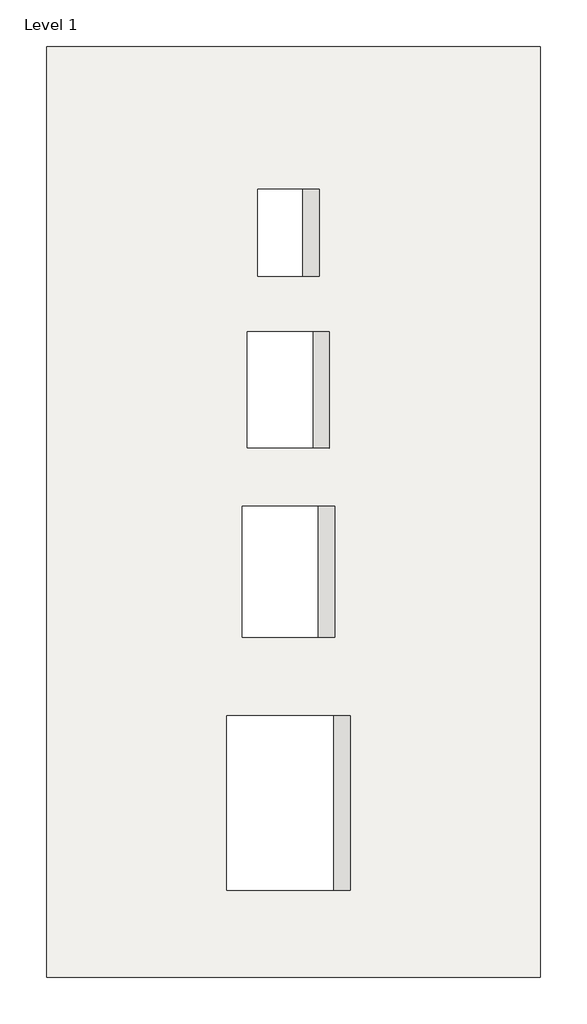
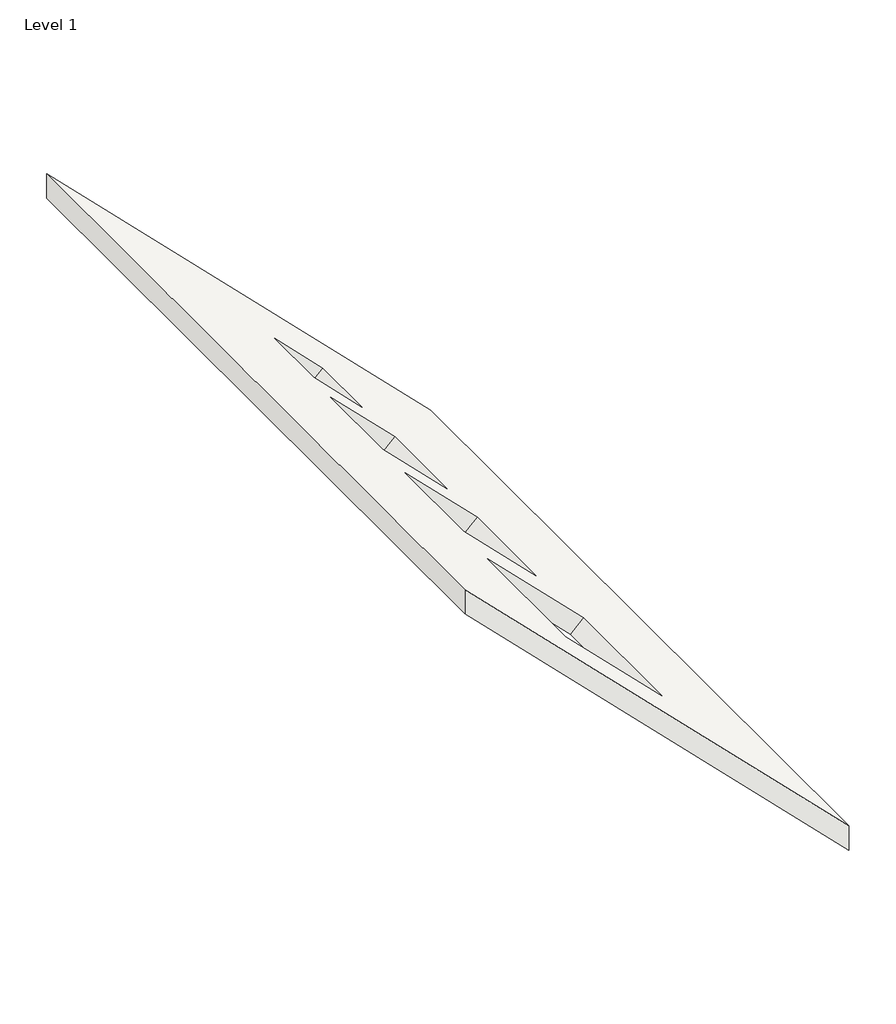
# One storey: 1 roof.
"""IFC4 building model written with IfcOpenShell, lengths in millimetres."""

import ifcopenshell
import ifcopenshell.guid

model = None  # the IFC model being written
_history = None  # IfcOwnerHistory: only IFC2X3 demands one
_inside = {}  # id of a spatial element -> (the spatial element, [elements in it])
_under = {}  # id of a project, library or spatial element -> (it, [spatial elements below it])
_declared = {}  # id of a project -> (the project, [libraries it declares])
_typed = {}  # id of a type object -> (the type object, [elements of that type])
_made_of = {}  # id of a material, layer set ... -> (it, [elements and type objects made of it])


def new_model(schema):
    """Start an empty IFC model of exactly this schema.

    Asked for "IFC4X3", IfcOpenShell would pick the latest addendum, in which some entities
    have other attributes; the version numbers below select the first issue.
    IFC2X3 requires an IfcOwnerHistory on every rooted entity: one is made here for all.
    """
    global model, _history
    if schema == "IFC4X3":
        model = ifcopenshell.file(schema_version=(4, 3, 0, 0))
    else:
        model = ifcopenshell.file(schema=schema)
    _inside.clear()
    _under.clear()
    _declared.clear()
    _typed.clear()
    _made_of.clear()
    _history = None
    if model.schema == "IFC2X3":
        org = make("IfcOrganization", Name="unknown")
        user = make(
            "IfcPersonAndOrganization",
            ThePerson=make("IfcPerson", FamilyName="unknown"),
            TheOrganization=org,
        )
        app = make(
            "IfcApplication",
            ApplicationDeveloper=org,
            Version="unknown",
            ApplicationFullName="unknown",
            ApplicationIdentifier="unknown",
        )
        _history = make(
            "IfcOwnerHistory",
            OwningUser=user,
            OwningApplication=app,
            ChangeAction="ADDED",
            CreationDate=0,
        )
    return model


def make(cls, **values):
    """One entity of the class cls with the attributes given. An attribute that is None is left unset."""
    return model.create_entity(
        cls, **{name: value for name, value in values.items() if value is not None}
    )


def rooted(cls, **values):
    """An entity with a GlobalId (a new one), such as an element, a storey or a relation."""
    return make(cls, GlobalId=ifcopenshell.guid.new(), OwnerHistory=_history, **values)


def si_unit(unit_type, name, prefix=None):
    """IfcSIUnit, for example si_unit("LENGTHUNIT", "METRE", prefix="MILLI")."""
    return make("IfcSIUnit", UnitType=unit_type, Prefix=prefix, Name=name)


def assignment(units):
    """IfcUnitAssignment: the units of a project."""
    return None if units is None else make("IfcUnitAssignment", Units=units)


def point(xyz):
    """IfcCartesianPoint."""
    return None if xyz is None else make("IfcCartesianPoint", Coordinates=xyz)


def direction(xyz):
    """IfcDirection."""
    return None if xyz is None else make("IfcDirection", DirectionRatios=xyz)


def frame(location, z_axis=None, x_axis=None):
    """IfcAxis2Placement3D, a coordinate frame: its origin and axes. An axis left out is left unset."""
    return make(
        "IfcAxis2Placement3D",
        Location=point(location),
        Axis=direction(z_axis),
        RefDirection=direction(x_axis),
    )


def origin():
    """The frame at (0, 0, 0) with its axes left unset."""
    return frame((0.0, 0.0, 0.0))


def place(relative_to, where):
    """IfcLocalPlacement: puts the frame where relative to a parent placement (None: the world)."""
    return make(
        "IfcLocalPlacement", PlacementRelTo=relative_to, RelativePlacement=where
    )


def context(
    kind, dimensions, precision=None, world=None, true_north=None, identifier=None
):
    """IfcGeometricRepresentationContext, for example the 3D "Model" context."""
    return make(
        "IfcGeometricRepresentationContext",
        ContextIdentifier=identifier,
        ContextType=kind,
        CoordinateSpaceDimension=dimensions,
        Precision=precision,
        WorldCoordinateSystem=world,
        TrueNorth=true_north,
    )


def project(units=None, contexts=None):
    """IfcProject with its units and contexts."""
    return rooted(
        "IfcProject",
        Name="project",
        RepresentationContexts=contexts,
        UnitsInContext=assignment(units),
    )


def spatial(cls, under=None, at=None, **own):
    """A site, building, storey or space (cls), placed at a placement, below another one or the project."""
    s = rooted(cls, ObjectPlacement=at, **own)
    if under is not None:
        _under.setdefault(under.id(), (under, []))[1].append(s)
    return s


def faces_of(points, faces, orient=None, outer=None):
    """IfcFace entities. A face is a list of loops; a loop is a list of indices into points, from 0.

    orient and outer hold one flag for each loop. By default every Orientation is true, the
    first loop of a face is its IfcFaceOuterBound and the others are IfcFaceBound.
    """
    made = []
    for i, loops in enumerate(faces):
        bounds = []
        for j, loop in enumerate(loops):
            is_outer = j == 0 if outer is None else outer[i][j]
            bounds.append(
                make(
                    "IfcFaceOuterBound" if is_outer else "IfcFaceBound",
                    Bound=make("IfcPolyLoop", Polygon=[points[k] for k in loop]),
                    Orientation=True if orient is None else orient[i][j],
                )
            )
        made.append(make("IfcFace", Bounds=bounds))
    return made


def faceted_brep(points, faces, orient=None, outer=None, voids=None):
    """IfcFacetedBrep: a solid bounded by flat faces; with voids (closed shells), ...WithVoids."""
    shared = [point(p) for p in points]
    hull = make("IfcClosedShell", CfsFaces=faces_of(shared, faces, orient, outer))
    if voids is None:
        return make("IfcFacetedBrep", Outer=hull)
    return make(
        "IfcFacetedBrepWithVoids",
        Outer=hull,
        Voids=[
            make(cls, CfsFaces=faces_of(shared, fs, o, b)) for cls, fs, o, b in voids
        ],
    )


def shape(context_of_items, identifier, shape_type, items):
    """IfcShapeRepresentation: the items that make up one representation, for example the "Body"."""
    return make(
        "IfcShapeRepresentation",
        ContextOfItems=context_of_items,
        RepresentationIdentifier=identifier,
        RepresentationType=shape_type,
        Items=items,
    )


def made_of(thing, what):
    """Note that an element or type object is made of a material, layer set ...; save() writes the relation."""
    if what is not None:
        _made_of.setdefault(what.id(), (what, []))[1].append(thing)
    return thing


def element(
    cls,
    number,
    at=None,
    inside=None,
    cuts=None,
    type_object=None,
    material=None,
    context=None,
    identifier="Body",
    shape_type=None,
    held_by="IfcProductDefinitionShape",
    body=None,
    shapes=None,
    **own,
):
    """One element of the class cls, such as IfcWall. Its Tag is "e" and its number.

    at: its placement. inside: the storey or other place that contains it. cuts: it is an
    opening in that element (IfcRelVoidsElement). A single representation is given by context,
    identifier, shape_type and body (its items); several are given by shapes. held_by: the class
    of the entity that holds the representations. save() writes the other relations.
    """
    e = rooted(cls, Tag="e%d" % number, ObjectPlacement=at, **own)
    if body is not None:
        shapes = [shape(context, identifier, shape_type, body)]
    if shapes is not None:
        e.Representation = make(held_by, Representations=shapes)
    if inside is not None:
        _inside.setdefault(inside.id(), (inside, []))[1].append(e)
    if cuts is not None:
        rooted(
            "IfcRelVoidsElement", RelatingBuildingElement=cuts, RelatedOpeningElement=e
        )
    if type_object is not None:
        _typed.setdefault(type_object.id(), (type_object, []))[1].append(e)
    return made_of(e, material)


def aggregate(whole, parts):
    """IfcRelAggregates: a whole, such as a stair, and the parts it consists of."""
    return rooted("IfcRelAggregates", RelatingObject=whole, RelatedObjects=parts)


def save(model, path):
    """Write the relations noted so far, then the file.

    IfcRelAggregates (storeys below a building ...), IfcRelContainedInSpatialStructure (elements
    in a storey), IfcRelDefinesByType, IfcRelAssociatesMaterial and IfcRelDeclares: one each for
    every whole, place, type object, material and project.
    """
    for whole, parts in _under.values():
        aggregate(whole, parts)
    for where, things in _inside.values():
        rooted(
            "IfcRelContainedInSpatialStructure",
            RelatedElements=things,
            RelatingStructure=where,
        )
    for kind, things in _typed.values():
        rooted("IfcRelDefinesByType", RelatedObjects=things, RelatingType=kind)
    for what, things in _made_of.values():
        rooted("IfcRelAssociatesMaterial", RelatedObjects=things, RelatingMaterial=what)
    for by, libraries in _declared.values():
        rooted("IfcRelDeclares", RelatingContext=by, RelatedDefinitions=libraries)
    model.write(path)


model = new_model("IFC4")

# Units and contexts
model_context = context("Model", 3, world=origin())
ifc_project = project(units=[si_unit("LENGTHUNIT", "METRE", prefix="MILLI")], contexts=[model_context])

# Site, building, storey
site = spatial("IfcSite", under=ifc_project)
building = spatial("IfcBuilding", under=site)
storey = spatial("IfcBuildingStorey", under=building, Name="Level 1", Elevation=4000.0)

# Roof
placement = place(None, origin())
element("IfcRoof", 1, ObjectType="Generic - 400mm", at=placement, inside=storey, context=model_context, shape_type="Brep", body=[
    faceted_brep([(2033.722039, 5619.3219665, 1014.9437252), (336.6657641, 5619.3219665, 2712.0), (336.6657641, 5619.3219665, 2598.862915), (2033.722039, 5619.3219665, 901.8066402), (336.6657641, 8819.3219665, 2712.0), (2033.722039, 8819.3219665, 1014.9437252), (2033.722039, 8819.3219665, 901.8066402), (336.6657641, 8819.3219665, 2598.862915), (1380.1067457, 6519.3219665, 1668.5590185), (1380.1067457, 5919.3219665, 1668.5590185), (955.842677, 5919.3219665, 2092.8230872), (955.842677, 6519.3219665, 2092.8230872), (1327.0737371, 7239.3219665, 1721.5920271), (1327.0737371, 6789.3219665, 1721.5920271), (1008.8756855, 6789.3219665, 2039.7900786), (1008.8756855, 7239.3219665, 2039.7900786), (1309.3960675, 7839.3219665, 1739.2696966), (1309.3960675, 7439.3219665, 1739.2696966), (1026.5533551, 7439.3219665, 2022.1124091), (1026.5533551, 7839.3219665, 2022.1124091), (1274.0407285, 8329.3219665, 1774.6250357), (1274.0407285, 8029.3219665, 1774.6250357), (1061.9086941, 8029.3219665, 1986.75707), (1061.9086941, 8329.3219665, 1986.75707), (1323.5382032, 5919.3219665, 1611.990476), (1323.5382032, 6519.3219665, 1611.990476), (899.2741345, 6519.3219665, 2036.2545447), (899.2741345, 5919.3219665, 2036.2545447), (1270.5051946, 6789.3219665, 1665.0234846), (1270.5051946, 7239.3219665, 1665.0234846), (952.307143, 7239.3219665, 1983.2215361), (952.307143, 6789.3219665, 1983.2215361), (1252.827525, 7439.3219665, 1682.7011541), (1252.827525, 7839.3219665, 1682.7011541), (969.9848126, 7839.3219665, 1965.5438666), (969.9848126, 7439.3219665, 1965.5438666), (1217.472186, 8029.3219665, 1718.0564932), (1217.472186, 8329.3219665, 1718.0564932), (1005.3401516, 8329.3219665, 1930.1885275), (1005.3401516, 8029.3219665, 1930.1885275)], [[[0, 1, 2, 3]], [[4, 5, 6, 7]], [[1, 0, 5, 4], [8, 9, 10, 11], [12, 13, 14, 15], [16, 17, 18, 19], [20, 21, 22, 23]], [[2, 1, 4, 7]], [[3, 2, 7, 6], [24, 25, 26, 27], [28, 29, 30, 31], [32, 33, 34, 35], [36, 37, 38, 39]], [[0, 3, 6, 5]], [[8, 25, 24, 9]], [[9, 24, 27, 10]], [[10, 27, 26, 11]], [[25, 8, 11, 26]], [[12, 29, 28, 13]], [[13, 28, 31, 14]], [[14, 31, 30, 15]], [[29, 12, 15, 30]], [[16, 33, 32, 17]], [[17, 32, 35, 18]], [[18, 35, 34, 19]], [[33, 16, 19, 34]], [[20, 37, 36, 21]], [[21, 36, 39, 22]], [[22, 39, 38, 23]], [[37, 20, 23, 38]]]),
])

save(model, "model.ifc")
